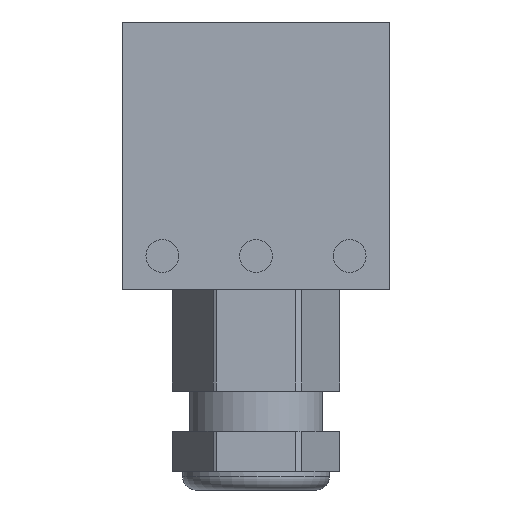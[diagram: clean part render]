
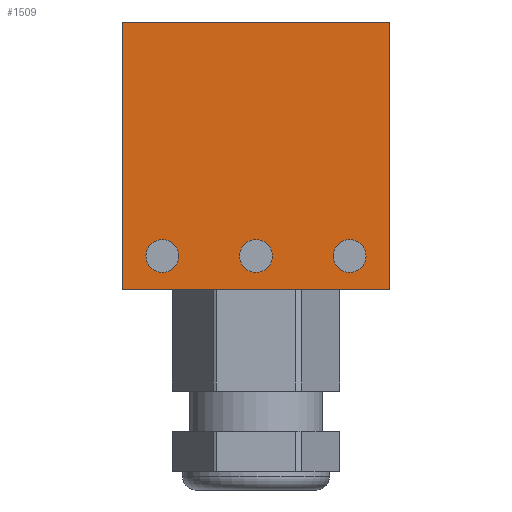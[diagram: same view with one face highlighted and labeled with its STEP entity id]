
A CAD part, left-side view. The second image highlights one B-rep face of the part: STEP entity #1509.
In plain terms, the highlighted planar face has unit normal (-1, 0, 0).
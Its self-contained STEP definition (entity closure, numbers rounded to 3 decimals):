
#1509 = ADVANCED_FACE( '', ( #3144, #3145, #3146, #3147 ), #3148, .F. );
#3144 = FACE_OUTER_BOUND( '', #4983, .T. );
#3145 = FACE_BOUND( '', #4984, .T. );
#3146 = FACE_BOUND( '', #4985, .T. );
#3147 = FACE_BOUND( '', #4986, .T. );
#3148 = PLANE( '', #4987 );
#4983 = EDGE_LOOP( '', ( #9411, #9412, #9413, #9414 ) );
#4984 = EDGE_LOOP( '', ( #9415 ) );
#4985 = EDGE_LOOP( '', ( #9416 ) );
#4986 = EDGE_LOOP( '', ( #9417 ) );
#4987 = AXIS2_PLACEMENT_3D( '', #9418, #9419, #9420 );
#9411 = ORIENTED_EDGE( '', *, *, #10861, .T. );
#9412 = ORIENTED_EDGE( '', *, *, #10387, .F. );
#9413 = ORIENTED_EDGE( '', *, *, #11226, .T. );
#9414 = ORIENTED_EDGE( '', *, *, #10427, .T. );
#9415 = ORIENTED_EDGE( '', *, *, #11034, .F. );
#9416 = ORIENTED_EDGE( '', *, *, #10191, .F. );
#9417 = ORIENTED_EDGE( '', *, *, #10167, .F. );
#9418 = CARTESIAN_POINT( '', ( -75., -10., 4.8 ) );
#9419 = DIRECTION( '', ( 1., 0., 0. ) );
#9420 = DIRECTION( '', ( 0., 0., 1. ) );
#10167 = EDGE_CURVE( '', #12327, #12327, #12328, .T. );
#10191 = EDGE_CURVE( '', #12367, #12367, #12368, .T. );
#10387 = EDGE_CURVE( '', #12686, #12543, #12688, .T. );
#10427 = EDGE_CURVE( '', #12757, #12755, #12758, .T. );
#10861 = EDGE_CURVE( '', #12755, #12543, #13368, .T. );
#11034 = EDGE_CURVE( '', #13590, #13590, #13591, .T. );
#11226 = EDGE_CURVE( '', #12686, #12757, #13805, .T. );
#12327 = VERTEX_POINT( '', #15279 );
#12328 = CIRCLE( '', #15280, 1.23 );
#12367 = VERTEX_POINT( '', #15333 );
#12368 = CIRCLE( '', #15334, 1.23 );
#12543 = VERTEX_POINT( '', #15583 );
#12686 = VERTEX_POINT( '', #15812 );
#12688 = LINE( '', #15815, #15816 );
#12755 = VERTEX_POINT( '', #15904 );
#12757 = VERTEX_POINT( '', #15907 );
#12758 = LINE( '', #15908, #15909 );
#13368 = LINE( '', #16800, #16801 );
#13590 = VERTEX_POINT( '', #17107 );
#13591 = CIRCLE( '', #17108, 1.23 );
#13805 = LINE( '', #17393, #17394 );
#15279 = CARTESIAN_POINT( '', ( -75., 0., 1.271 ) );
#15280 = AXIS2_PLACEMENT_3D( '', #18205, #18206, #18207 );
#15333 = CARTESIAN_POINT( '', ( -75., -7., 1.271 ) );
#15334 = AXIS2_PLACEMENT_3D( '', #18231, #18232, #18233 );
#15583 = CARTESIAN_POINT( '', ( -75., 10., 20. ) );
#15812 = CARTESIAN_POINT( '', ( -75., 10., 0. ) );
#15815 = CARTESIAN_POINT( '', ( -75., 10., 4.8 ) );
#15816 = VECTOR( '', #18434, 1000. );
#15904 = CARTESIAN_POINT( '', ( -75., -10., 20. ) );
#15907 = CARTESIAN_POINT( '', ( -75., -10., 0. ) );
#15908 = CARTESIAN_POINT( '', ( -75., -10., 4.8 ) );
#15909 = VECTOR( '', #18493, 1000. );
#16800 = CARTESIAN_POINT( '', ( -75., -10., 20. ) );
#16801 = VECTOR( '', #18949, 1000. );
#17107 = CARTESIAN_POINT( '', ( -75., 7., 1.271 ) );
#17108 = AXIS2_PLACEMENT_3D( '', #19118, #19119, #19120 );
#17393 = CARTESIAN_POINT( '', ( -75., 10., 0. ) );
#17394 = VECTOR( '', #19258, 1000. );
#18205 = CARTESIAN_POINT( '', ( -75., 0., 2.5 ) );
#18206 = DIRECTION( '', ( -1., 0., 0. ) );
#18207 = DIRECTION( '', ( 0., 0., -1. ) );
#18231 = CARTESIAN_POINT( '', ( -75., -7., 2.5 ) );
#18232 = DIRECTION( '', ( -1., 0., 0. ) );
#18233 = DIRECTION( '', ( 0., 0., -1. ) );
#18434 = DIRECTION( '', ( 0., 0., 1. ) );
#18493 = DIRECTION( '', ( 0., 0., 1. ) );
#18949 = DIRECTION( '', ( 0., 1., 0. ) );
#19118 = CARTESIAN_POINT( '', ( -75., 7., 2.5 ) );
#19119 = DIRECTION( '', ( -1., 0., 0. ) );
#19120 = DIRECTION( '', ( 0., 0., -1. ) );
#19258 = DIRECTION( '', ( 0., -1., 0. ) );
